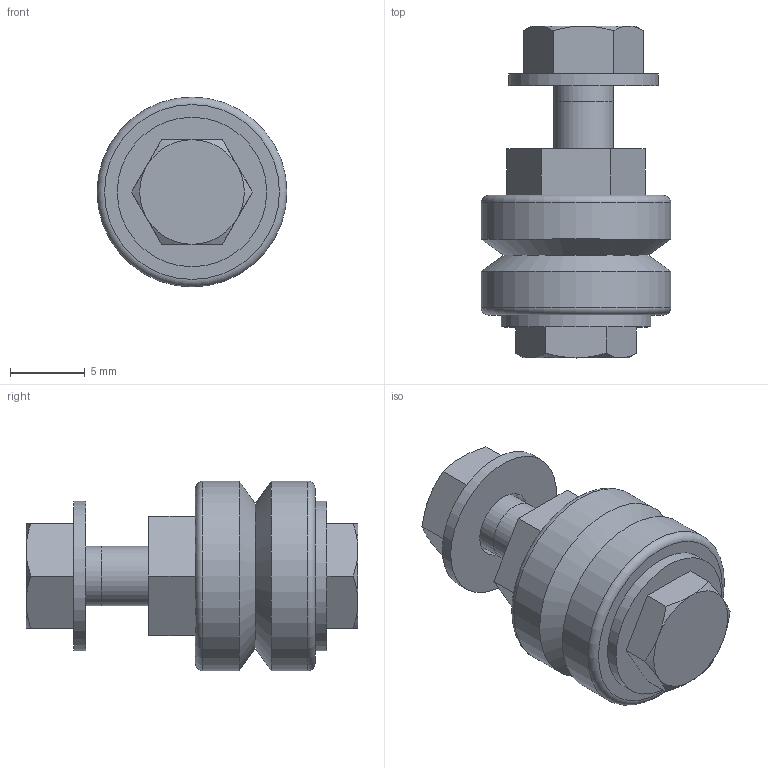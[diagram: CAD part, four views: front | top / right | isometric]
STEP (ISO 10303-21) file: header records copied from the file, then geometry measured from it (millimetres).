
FILE_DESCRIPTION(('STEP AP203'),'1');
FILE_NAME('//192.168.1.1/share/s-4 技術開発/s-4-4_CAD/s-4-4-6_見直し、確認済み/013 修正済み(済)/ジャーナル_TOP/NA/NA-187-E.step','2022-03-11T06:50:34',(' '),(' '),'Spatial InterOp 3D',' ',' ');
FILE_SCHEMA(('CONFIG_CONTROL_DESIGN'));
Length unit declared in the file: millimetre
Products named in the file (3): 1; 2; 3
Bounding box: 12.7 x 22.2 x 12.7 mm (x, y, z)
Volume: 1529.7 mm3; surface area: 1196.9 mm2
Topology: 3 solids, 3 shells, 52 faces, 113 edges, 70 vertices
Faces by surface type: plane 27, cone 14, cylinder 8, torus 2, sphere 1
Full cylindrical faces by diameter (mm): 3.3 x1, 4 x2, 4.5 x1, 10 x2, 12.7 x2
Entity records: 1494 total; most frequent: CARTESIAN_POINT 321, DIRECTION 212, ORIENTED_EDGE 192, EDGE_CURVE 96, AXIS2_PLACEMENT_3D 85, EDGE_LOOP 72, VERTEX_POINT 66, FACE_OUTER_BOUND 62
